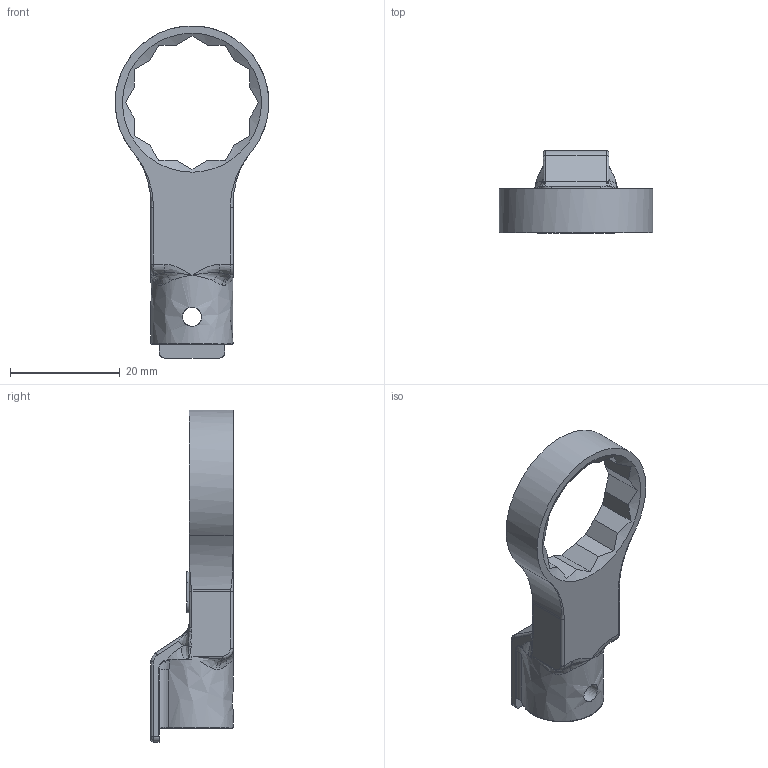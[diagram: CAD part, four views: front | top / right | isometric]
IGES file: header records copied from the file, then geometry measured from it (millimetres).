
Global section: file name: RH10DX21; native system: Autodesk Inventor 2016; preprocessor: unknown; author: Q600; date: 20151110.155114; units: millimetre
Bounding box: 28 x 15 x 60.47 mm (x, y, z)
Volume: 5446 mm3; surface area: 3758.1 mm2
Topology: 1 solids, 1 shells, 132 faces, 357 edges, 217 vertices
Faces by surface type: bspline 132
